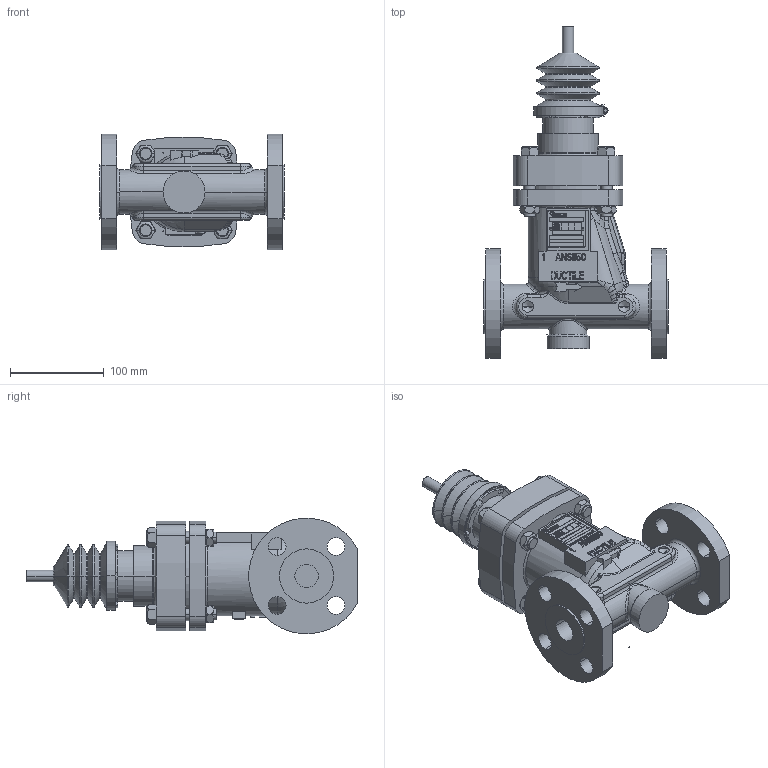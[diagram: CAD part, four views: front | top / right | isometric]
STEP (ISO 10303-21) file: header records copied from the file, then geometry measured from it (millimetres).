
FILE_DESCRIPTION((''),'2;1');
FILE_NAME('9560-00-5027_A_ASM','2014-04-03T',('SParmar1'),(''),'PRO/ENGINEER BY PARAMETRIC TECHNOLOGY CORPORATION, 2011040','PRO/ENGINEER BY PARAMETRIC TECHNOLOGY CORPORATION, 2011040','');
FILE_SCHEMA(('CONFIG_CONTROL_DESIGN'));
Products named in the file (6): 9567-12-2042; 9568-27-5105; 4188_11_1060; M12_X_65; M12_X_HEX_NUT; 9560-00-5027_A_ASM
Assembly tree (11 placements, depth 2):
  9560-00-5027_A_ASM
    9567-12-2042
    9568-27-5105
    4188_11_1060
    M12_X_65  x4
    M12_X_HEX_NUT  x4
Bounding box: 197 x 355 x 123.56 mm (x, y, z)
Volume: 2117045.4 mm3; surface area: 288863.3 mm2
Topology: 15 solids, 16 shells, 2819 faces, 7707 edges, 5044 vertices
Faces by surface type: plane 2341, cylinder 218, bspline 121, torus 66, cone 50, extrusion 17, sphere 6
Entity records: 90950 total; most frequent: CARTESIAN_POINT 21673, ORIENTED_EDGE 15038, DIRECTION 13054, EDGE_CURVE 7519, VECTOR 6600, LINE 6583, VERTEX_POINT 4930, AXIS2_PLACEMENT_3D 3227
